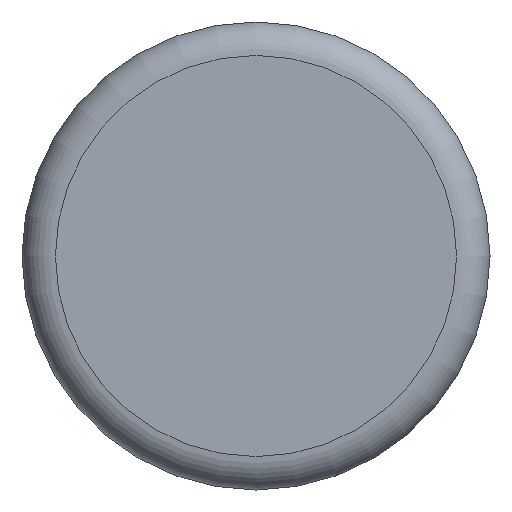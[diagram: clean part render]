
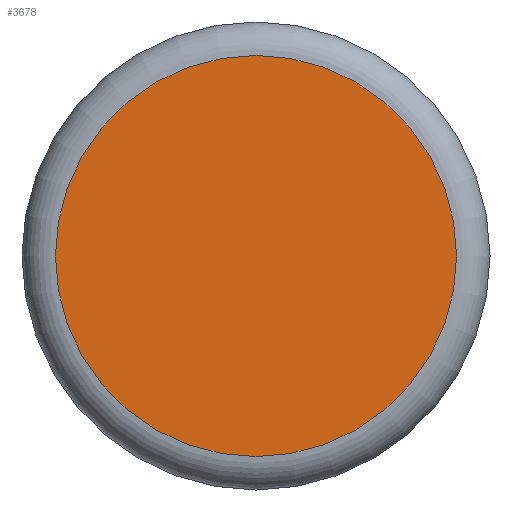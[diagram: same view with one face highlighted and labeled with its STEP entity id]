
A CAD part, front view. The second image highlights one B-rep face of the part: STEP entity #3678.
In plain terms, the highlighted planar face has unit normal (0, -1, 0).
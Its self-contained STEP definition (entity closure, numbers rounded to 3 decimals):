
#136=PLANE('',#3892);
#429=FACE_OUTER_BOUND('',#652,.T.);
#652=EDGE_LOOP('',(#3436));
#1269=CIRCLE('',#3891,6.);
#1815=VERTEX_POINT('',#8055);
#2357=EDGE_CURVE('',#1815,#1815,#1269,.T.);
#3436=ORIENTED_EDGE('',*,*,#2357,.F.);
#3678=ADVANCED_FACE('',(#429),#136,.F.);
#3891=AXIS2_PLACEMENT_3D('',#8056,#4569,#4570);
#3892=AXIS2_PLACEMENT_3D('',#8057,#4571,#4572);
#4569=DIRECTION('center_axis',(0.,1.,0.));
#4570=DIRECTION('ref_axis',(1.,0.,0.));
#4571=DIRECTION('center_axis',(0.,1.,0.));
#4572=DIRECTION('ref_axis',(0.,0.,1.));
#8055=CARTESIAN_POINT('',(-6.,-2.,0.));
#8056=CARTESIAN_POINT('Origin',(0.,-2.,0.));
#8057=CARTESIAN_POINT('Origin',(0.,-2.,0.));
